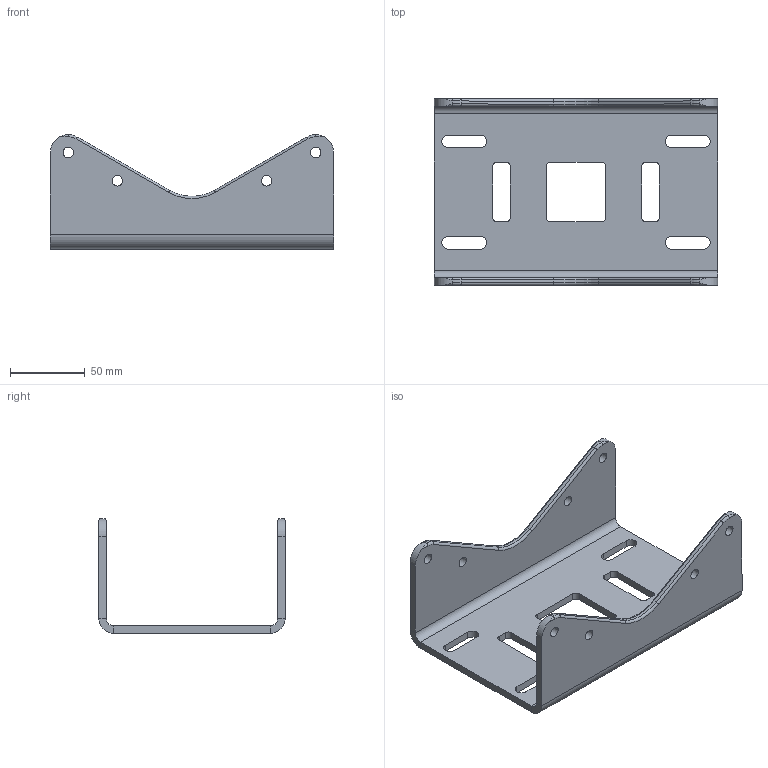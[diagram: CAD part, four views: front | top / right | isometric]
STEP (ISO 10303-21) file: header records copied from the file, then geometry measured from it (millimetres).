
FILE_DESCRIPTION (( 'STEP AP203' ), '1' );
FILE_NAME ('ORW-72.24.005 呧緪懤艜.STEP', '2025-10-13T13:18:11', ( '燴僽樥' ), ( '' ), 'SwSTEP 2.0', 'SolidWorks 2025', '' );
FILE_SCHEMA (( 'CONFIG_CONTROL_DESIGN' ));
Length unit declared in the file: millimetre
Products named in the file (1): ORW-72.24.005 Ложемент
Bounding box: 190 x 125 x 77 mm (x, y, z)
Volume: 193181.7 mm3; surface area: 85593.1 mm2
Topology: 1 solids, 1 shells, 114 faces, 300 edges, 188 vertices
Faces by surface type: cylinder 58, plane 44, torus 12
Full cylindrical faces by diameter (mm): 7 x8
Entity records: 3655 total; most frequent: CARTESIAN_POINT 683, DIRECTION 630, ORIENTED_EDGE 576, EDGE_CURVE 288, AXIS2_PLACEMENT_3D 235, VERTEX_POINT 184, VECTOR 160, LINE 160
